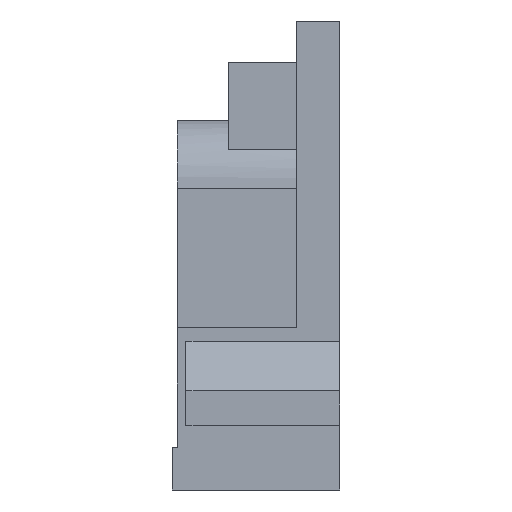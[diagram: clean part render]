
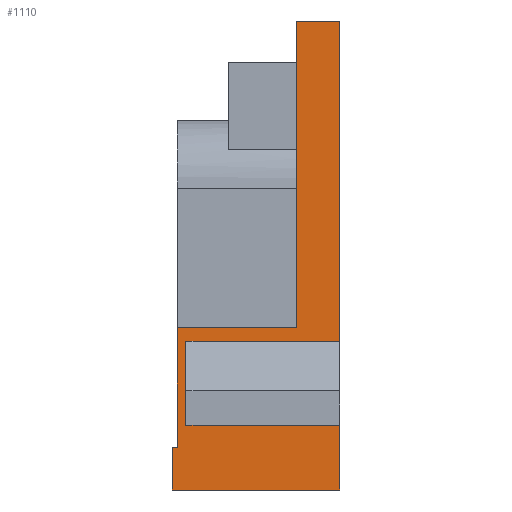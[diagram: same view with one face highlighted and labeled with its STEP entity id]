
A CAD part, left-side view. The second image highlights one B-rep face of the part: STEP entity #1110.
In plain terms, the highlighted planar face has unit normal (-1, 0, 0).
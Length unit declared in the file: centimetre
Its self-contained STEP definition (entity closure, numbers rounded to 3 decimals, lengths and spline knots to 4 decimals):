
#65=FACE_OUTER_BOUND('',#127,.T.);
#127=EDGE_LOOP('',(#832,#833,#834,#835,#836,#837,#838,#839,#840,#841,#842,
#843));
#185=LINE('',#1562,#326);
#207=LINE('',#1609,#348);
#209=LINE('',#1615,#350);
#225=LINE('',#1646,#366);
#233=LINE('',#1664,#374);
#240=LINE('',#1687,#381);
#241=LINE('',#1690,#382);
#245=LINE('',#1697,#386);
#251=LINE('',#1798,#392);
#252=LINE('',#1800,#393);
#253=LINE('',#1801,#394);
#254=LINE('',#1802,#395);
#326=VECTOR('',#1259,1.);
#348=VECTOR('',#1291,1.);
#350=VECTOR('',#1295,1.);
#366=VECTOR('',#1315,1.);
#374=VECTOR('',#1329,1.);
#381=VECTOR('',#1348,1.);
#382=VECTOR('',#1351,1.);
#386=VECTOR('',#1355,1.);
#392=VECTOR('',#1365,1.);
#393=VECTOR('',#1366,1.);
#394=VECTOR('',#1367,1.);
#395=VECTOR('',#1368,1.);
#467=VERTEX_POINT('',#1559);
#468=VERTEX_POINT('',#1561);
#488=VERTEX_POINT('',#1607);
#490=VERTEX_POINT('',#1612);
#491=VERTEX_POINT('',#1614);
#504=VERTEX_POINT('',#1645);
#511=VERTEX_POINT('',#1663);
#521=VERTEX_POINT('',#1685);
#522=VERTEX_POINT('',#1689);
#525=VERTEX_POINT('',#1695);
#530=VERTEX_POINT('',#1797);
#531=VERTEX_POINT('',#1799);
#574=EDGE_CURVE('',#467,#468,#185,.T.);
#598=EDGE_CURVE('',#488,#467,#207,.T.);
#600=EDGE_CURVE('',#490,#491,#209,.T.);
#616=EDGE_CURVE('',#491,#504,#225,.T.);
#626=EDGE_CURVE('',#504,#511,#233,.T.);
#638=EDGE_CURVE('',#490,#521,#240,.T.);
#639=EDGE_CURVE('',#522,#468,#241,.T.);
#643=EDGE_CURVE('',#521,#525,#245,.T.);
#650=EDGE_CURVE('',#530,#525,#251,.T.);
#651=EDGE_CURVE('',#531,#530,#252,.T.);
#652=EDGE_CURVE('',#522,#531,#253,.T.);
#653=EDGE_CURVE('',#511,#488,#254,.T.);
#832=ORIENTED_EDGE('',*,*,#638,.T.);
#833=ORIENTED_EDGE('',*,*,#643,.T.);
#834=ORIENTED_EDGE('',*,*,#650,.F.);
#835=ORIENTED_EDGE('',*,*,#651,.F.);
#836=ORIENTED_EDGE('',*,*,#652,.F.);
#837=ORIENTED_EDGE('',*,*,#639,.T.);
#838=ORIENTED_EDGE('',*,*,#574,.F.);
#839=ORIENTED_EDGE('',*,*,#598,.F.);
#840=ORIENTED_EDGE('',*,*,#653,.F.);
#841=ORIENTED_EDGE('',*,*,#626,.F.);
#842=ORIENTED_EDGE('',*,*,#616,.F.);
#843=ORIENTED_EDGE('',*,*,#600,.F.);
#1063=PLANE('',#1191);
#1110=ADVANCED_FACE('',(#65),#1063,.T.);
#1191=AXIS2_PLACEMENT_3D('',#1796,#1363,#1364);
#1259=DIRECTION('',(0.,-1.,0.));
#1291=DIRECTION('',(0.,0.,1.));
#1295=DIRECTION('',(0.,0.,1.));
#1315=DIRECTION('',(0.,-1.,0.));
#1329=DIRECTION('',(0.,0.,1.));
#1348=DIRECTION('',(0.,-1.,0.));
#1351=DIRECTION('',(0.,0.,1.));
#1355=DIRECTION('',(0.,0.,1.));
#1363=DIRECTION('center_axis',(-1.,0.,0.));
#1364=DIRECTION('ref_axis',(0.,-1.,0.));
#1365=DIRECTION('',(0.,-1.,0.));
#1366=DIRECTION('',(0.,0.,-1.));
#1367=DIRECTION('',(0.,1.,0.));
#1368=DIRECTION('',(0.,-1.,0.));
#1559=CARTESIAN_POINT('',(-3.31,-4.95,2.74));
#1561=CARTESIAN_POINT('',(-3.31,-5.2,2.74));
#1562=CARTESIAN_POINT('',(-3.31,-4.95,2.74));
#1607=CARTESIAN_POINT('',(-3.31,-4.95,0.95));
#1609=CARTESIAN_POINT('',(-3.31,-4.95,0.));
#1612=CARTESIAN_POINT('',(-3.31,-4.22,0.));
#1614=CARTESIAN_POINT('',(-3.31,-4.22,0.25));
#1615=CARTESIAN_POINT('',(-3.31,-4.22,0.));
#1645=CARTESIAN_POINT('',(-3.31,-4.25,0.25));
#1646=CARTESIAN_POINT('',(-3.31,-4.22,0.25));
#1663=CARTESIAN_POINT('',(-3.31,-4.25,0.95));
#1664=CARTESIAN_POINT('',(-3.31,-4.25,0.));
#1685=CARTESIAN_POINT('',(-3.31,-5.2,0.));
#1687=CARTESIAN_POINT('',(-3.31,-4.95,0.));
#1689=CARTESIAN_POINT('',(-3.31,-5.2,0.87));
#1690=CARTESIAN_POINT('',(-3.31,-5.2,0.));
#1695=CARTESIAN_POINT('',(-3.31,-5.2,0.38));
#1697=CARTESIAN_POINT('',(-3.31,-5.2,0.));
#1796=CARTESIAN_POINT('Origin',(-3.31,-4.95,0.));
#1797=CARTESIAN_POINT('',(-3.31,-4.3,0.38));
#1798=CARTESIAN_POINT('',(-3.31,-4.725,0.38));
#1799=CARTESIAN_POINT('',(-3.31,-4.3,0.87));
#1800=CARTESIAN_POINT('',(-3.31,-4.3,0.4465));
#1801=CARTESIAN_POINT('',(-3.31,-4.725,0.87));
#1802=CARTESIAN_POINT('',(-3.31,-4.25,0.95));
